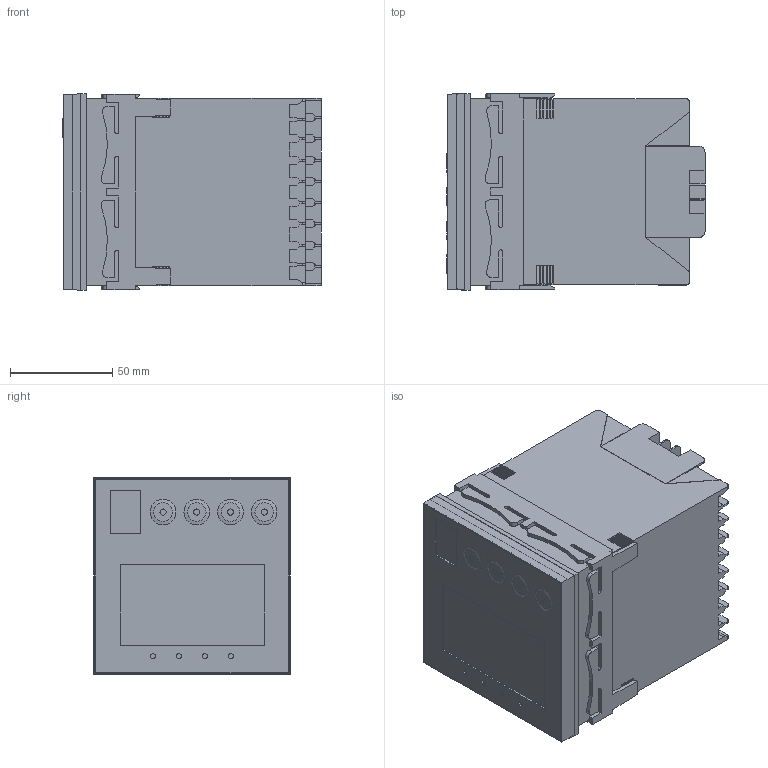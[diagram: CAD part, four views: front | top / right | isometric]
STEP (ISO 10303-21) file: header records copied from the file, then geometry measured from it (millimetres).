
FILE_DESCRIPTION( ( '' ), '1' );
FILE_NAME( '//Server/Users/WC000/WC011/WORKING/DEV/V 1-00/EC44/EC44 - CC-01.stp', '2017-01-18T22:35:46', ( 'KPM' ), ( 'KMC Design' ), 'PSStep 17.0.49', ' ', ' ' );
FILE_SCHEMA( ( 'AUTOMOTIVE_DESIGN { 1 0 10303 214 1 1 1 1 }' ) );
Length unit declared in the file: millimetre
Products named in the file (6): Assem1; 18723 - CC-01; 18618 - CC-01; 18599 - CC - 01; 018624; Membrane EC44 3D
Assembly tree (5 placements, depth 2):
  Assem1
    18723 - CC-01
    18618 - CC-01
    18599 - CC - 01
    018624
    Membrane EC44 3D
Bounding box: 126.25 x 96.15 x 96 mm (x, y, z)
Volume: 1024961.3 mm3; surface area: 143453.3 mm2
Topology: 5 solids, 7 shells, 860 faces, 2418 edges, 1593 vertices
Faces by surface type: plane 725, cylinder 93, extrusion 30, cone 4, torus 4, bspline 4
Full cylindrical faces by diameter (mm): 2.5 x4
Entity records: 35879 total; most frequent: CARTESIAN_POINT 6667, ORIENTED_EDGE 4798, DIRECTION 4275, EDGE_CURVE 2399, VECTOR 2127, LINE 2097, VERTEX_POINT 1590, AXIS2_PLACEMENT_3D 1074
